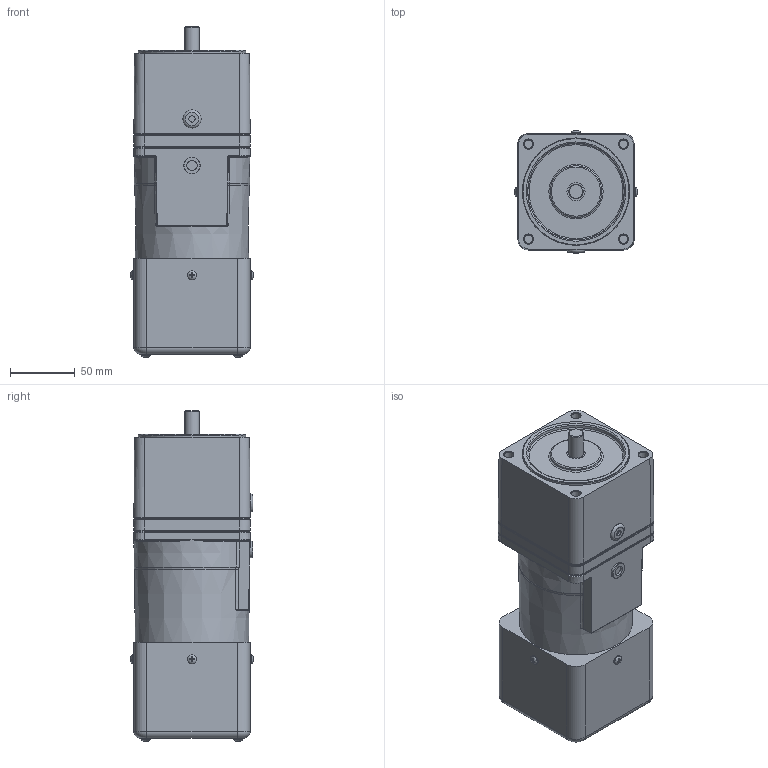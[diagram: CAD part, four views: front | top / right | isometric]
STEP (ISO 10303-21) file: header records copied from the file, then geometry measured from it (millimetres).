
FILE_DESCRIPTION (( 'STEP AP214' ), '1' );
FILE_NAME ('9CIDG¤±-60F2P.STEP', '2025-01-13T08:07:59', ( '' ), ( '' ), 'SwSTEP 2.0', 'SolidWorks 2024', '' );
FILE_SCHEMA (( 'AUTOMOTIVE_DESIGN' ));
Length unit declared in the file: millimetre
Products named in the file (1): 9CIDGㅁ-60F2P
Bounding box: 95.13 x 95.13 x 256.07 mm (x, y, z)
Volume: 1684973.1 mm3; surface area: 118820.4 mm2
Topology: 1 solids, 2 shells, 496 faces, 1230 edges, 789 vertices
Faces by surface type: plane 231, cylinder 142, cone 45, bspline 40, torus 36, sphere 2
Full cylindrical faces by diameter (mm): 4.8 x1, 6.5 x4, 7 x12, 8 x1, 10 x1, 11.39 x1, 13 x1, 14 x2, 40 x2, 83.1 x2
Entity records: 15182 total; most frequent: CARTESIAN_POINT 4067, ORIENTED_EDGE 2256, DIRECTION 2213, EDGE_CURVE 1128, AXIS2_PLACEMENT_3D 837, VERTEX_POINT 769, EDGE_LOOP 637, FACE_OUTER_BOUND 542
